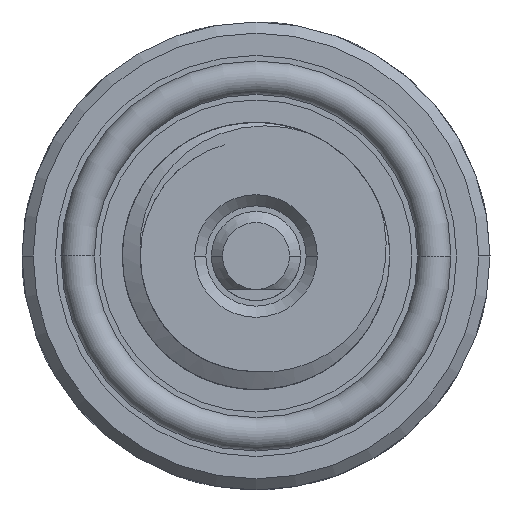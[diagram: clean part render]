
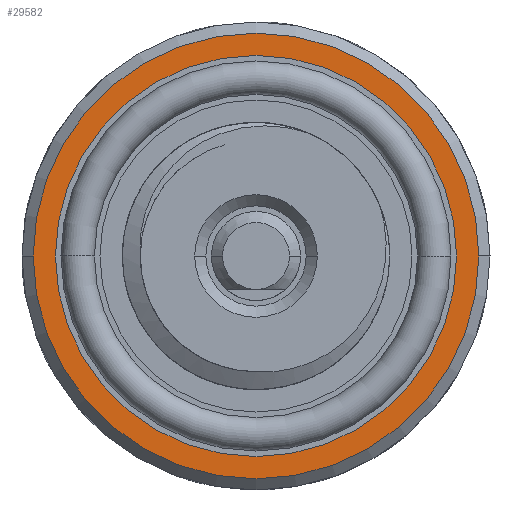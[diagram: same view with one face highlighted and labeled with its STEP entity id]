
A CAD part, left-side view. The second image highlights one B-rep face of the part: STEP entity #29582.
In plain terms, the highlighted planar face has unit normal (-1, 0, 0).
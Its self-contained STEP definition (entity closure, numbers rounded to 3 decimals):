
#3246 = EDGE_CURVE ( 'NONE', #3247, #3248, #9536, .T. ) ;
#3247 = VERTEX_POINT ( 'NONE', #9590 ) ;
#3248 = VERTEX_POINT ( 'NONE', #9589 ) ;
#5800 = VERTEX_POINT ( 'NONE', #17455 ) ;
#5812 = VERTEX_POINT ( 'NONE', #17449 ) ;
#5945 = EDGE_CURVE ( 'NONE', #5800, #5812, #18223, .T. ) ;
#9536 = CIRCLE ( 'NONE', #9594, 10. ) ;
#9589 = CARTESIAN_POINT ( 'NONE',  ( 25., 10., 0. ) ) ;
#9590 = CARTESIAN_POINT ( 'NONE',  ( 25., -10., 0. ) ) ;
#9591 = DIRECTION ( 'NONE',  ( 0., -1., 0. ) ) ;
#9592 = DIRECTION ( 'NONE',  ( -1., 0., 0. ) ) ;
#9593 = CARTESIAN_POINT ( 'NONE',  ( 25., 0., 0. ) ) ;
#9594 = AXIS2_PLACEMENT_3D ( 'NONE', #9593, #9592, #9591 ) ;
#15234 = FACE_OUTER_BOUND ( 'NONE', #29573, .T. ) ;
#15265 = DIRECTION ( 'NONE',  ( 0., -1., 0. ) ) ;
#15266 = DIRECTION ( 'NONE',  ( -1., 0., 0. ) ) ;
#15267 = CARTESIAN_POINT ( 'NONE',  ( 25., 0., 0. ) ) ;
#15268 = AXIS2_PLACEMENT_3D ( 'NONE', #15267, #15266, #15265 ) ;
#15269 = CIRCLE ( 'NONE', #15268, 9. ) ;
#15271 = DIRECTION ( 'NONE',  ( 0., -1., 0. ) ) ;
#15272 = DIRECTION ( 'NONE',  ( -1., 0., 0. ) ) ;
#15273 = CARTESIAN_POINT ( 'NONE',  ( 25., 0., 0. ) ) ;
#15274 = AXIS2_PLACEMENT_3D ( 'NONE', #15273, #15272, #15271 ) ;
#15275 = CIRCLE ( 'NONE', #15274, 10. ) ;
#15276 = DIRECTION ( 'NONE',  ( 0., -1., 0. ) ) ;
#15277 = DIRECTION ( 'NONE',  ( -1., 0., 0. ) ) ;
#15278 = CARTESIAN_POINT ( 'NONE',  ( 25., 6., 0. ) ) ;
#15279 = AXIS2_PLACEMENT_3D ( 'NONE', #15278, #15277, #15276 ) ;
#15281 = PLANE ( 'NONE',  #15279 ) ;
#15282 = FACE_BOUND ( 'NONE', #29744, .T. ) ;
#17449 = CARTESIAN_POINT ( 'NONE',  ( 25., -9., 0. ) ) ;
#17455 = CARTESIAN_POINT ( 'NONE',  ( 25., 9., 0. ) ) ;
#18223 = CIRCLE ( 'NONE', #18257, 9. ) ;
#18254 = DIRECTION ( 'NONE',  ( 0., -1., 0. ) ) ;
#18255 = DIRECTION ( 'NONE',  ( -1., 0., 0. ) ) ;
#18256 = CARTESIAN_POINT ( 'NONE',  ( 25., 0., 0. ) ) ;
#18257 = AXIS2_PLACEMENT_3D ( 'NONE', #18256, #18255, #18254 ) ;
#29573 = EDGE_LOOP ( 'NONE', ( #29584, #29588 ) ) ;
#29577 = ORIENTED_EDGE ( 'NONE', *, *, #29597, .F. ) ;
#29582 = ADVANCED_FACE ( 'NONE', ( #15234, #15282 ), #15281, .T. ) ;
#29584 = ORIENTED_EDGE ( 'NONE', *, *, #29590, .T. ) ;
#29588 = ORIENTED_EDGE ( 'NONE', *, *, #3246, .T. ) ;
#29590 = EDGE_CURVE ( 'NONE', #3248, #3247, #15275, .T. ) ;
#29597 = EDGE_CURVE ( 'NONE', #5812, #5800, #15269, .T. ) ;
#29602 = ORIENTED_EDGE ( 'NONE', *, *, #5945, .F. ) ;
#29744 = EDGE_LOOP ( 'NONE', ( #29577, #29602 ) ) ;
